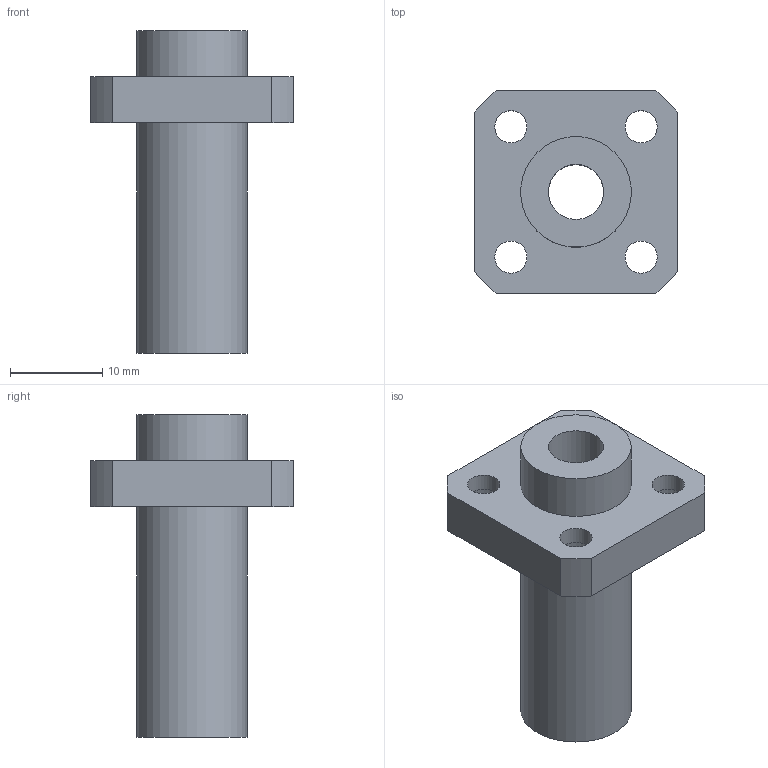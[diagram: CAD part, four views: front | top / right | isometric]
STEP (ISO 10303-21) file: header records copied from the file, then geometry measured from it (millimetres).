
FILE_DESCRIPTION(/* description */ (''),/* implementation_level */ '2;1');
FILE_NAME(/* name */ 'LMKP6LUU',/* time_stamp */ '2019-07-10T14:02:59+02:00',/* author */ ('VĂ©gh MĂˇtĂ©'),/* organization */ ('Bearing Kft'),/* preprocessor_version */ 'ST-DEVELOPER v16.7',/* originating_system */ 'DEX',/* authorisation */ $);
FILE_SCHEMA (('AUTOMOTIVE_DESIGN {1 0 10303 214 3 1 1}'));
Length unit declared in the file: millimetre
Products named in the file (1): LMKP6LUU
Bounding box: 22 x 22 x 35 mm (x, y, z)
Volume: 4348.8 mm3; surface area: 3342.9 mm2
Topology: 1 solids, 1 shells, 342 faces, 862 edges, 576 vertices
Faces by surface type: plane 259, bspline 66, cylinder 17
Full cylindrical faces by diameter (mm): 3.5 x4, 6 x5, 12 x2
Entity records: 12537 total; most frequent: CARTESIAN_POINT 4738, ORIENTED_EDGE 1690, DIRECTION 1301, EDGE_CURVE 845, LINE 679, VECTOR 679, VERTEX_POINT 572, EDGE_LOOP 419
